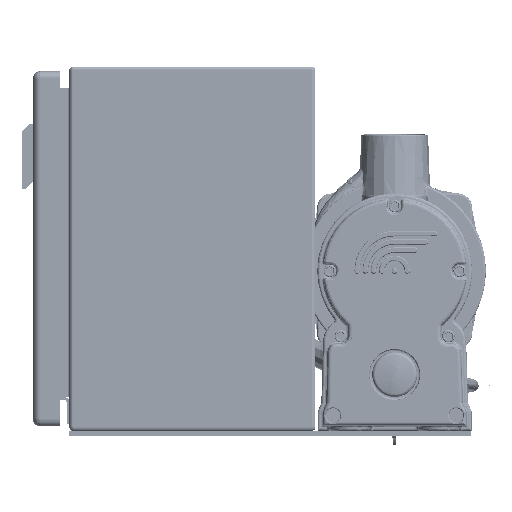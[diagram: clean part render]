
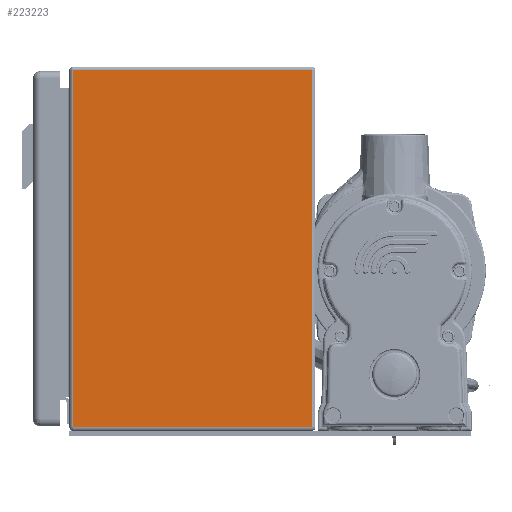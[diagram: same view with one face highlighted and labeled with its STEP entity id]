
A CAD part, left-side view. The second image highlights one B-rep face of the part: STEP entity #223223.
In plain terms, the highlighted planar face has unit normal (-1, 0, 0) as drawn and (0, 1, 0) by its records, which use the part's own axes.
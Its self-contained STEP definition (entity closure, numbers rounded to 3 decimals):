
#4651 = CARTESIAN_POINT ( 'NONE',  ( 97.95, 300., 55.45 ) ) ;
#18325 = ORIENTED_EDGE ( 'NONE', *, *, #51774, .F. ) ;
#24565 = CARTESIAN_POINT ( 'NONE',  ( 97.95, 300., -75.45 ) ) ;
#40385 = LINE ( 'NONE', #4651, #129734 ) ;
#41137 = DIRECTION ( 'NONE',  ( 1., 0., 0. ) ) ;
#45224 = VERTEX_POINT ( 'NONE', #56692 ) ;
#51774 = EDGE_CURVE ( 'NONE', #115761, #254929, #112729, .T. ) ;
#56692 = CARTESIAN_POINT ( 'NONE',  ( -97.95, 300., 55.45 ) ) ;
#76883 = CARTESIAN_POINT ( 'NONE',  ( 97.95, 300., -75.45 ) ) ;
#82906 = AXIS2_PLACEMENT_3D ( 'NONE', #203646, #167775, #132043 ) ;
#93990 = EDGE_CURVE ( 'NONE', #45224, #115761, #242966, .T. ) ;
#109415 = CARTESIAN_POINT ( 'NONE',  ( -97.95, 300., -75.45 ) ) ;
#112729 = LINE ( 'NONE', #76883, #324882 ) ;
#115761 = VERTEX_POINT ( 'NONE', #109415 ) ;
#129734 = VECTOR ( 'NONE', #318233, 1000. ) ;
#132043 = DIRECTION ( 'NONE',  ( 0., 0., 1. ) ) ;
#145980 = FACE_OUTER_BOUND ( 'NONE', #217727, .T. ) ;
#151869 = EDGE_CURVE ( 'NONE', #254929, #261859, #344418, .T. ) ;
#167775 = DIRECTION ( 'NONE',  ( 0., 1., 0. ) ) ;
#171306 = DIRECTION ( 'NONE',  ( 0., 0., -1. ) ) ;
#194602 = ORIENTED_EDGE ( 'NONE', *, *, #93990, .F. ) ;
#196412 = VECTOR ( 'NONE', #171306, 1000. ) ;
#203646 = CARTESIAN_POINT ( 'NONE',  ( 97.95, 300., -75.45 ) ) ;
#207207 = CARTESIAN_POINT ( 'NONE',  ( -97.95, 300., -10. ) ) ;
#217727 = EDGE_LOOP ( 'NONE', ( #317961, #18325, #194602, #236423 ) ) ;
#218790 = VECTOR ( 'NONE', #272768, 1000. ) ;
#223223 = ADVANCED_FACE ( 'NONE', ( #145980 ), #346849, .T. ) ;
#236423 = ORIENTED_EDGE ( 'NONE', *, *, #271337, .F. ) ;
#242966 = LINE ( 'NONE', #207207, #196412 ) ;
#254929 = VERTEX_POINT ( 'NONE', #24565 ) ;
#261859 = VERTEX_POINT ( 'NONE', #347715 ) ;
#271337 = EDGE_CURVE ( 'NONE', #261859, #45224, #40385, .T. ) ;
#272768 = DIRECTION ( 'NONE',  ( 0., 0., 1. ) ) ;
#308505 = CARTESIAN_POINT ( 'NONE',  ( 97.95, 300., -10. ) ) ;
#317961 = ORIENTED_EDGE ( 'NONE', *, *, #151869, .F. ) ;
#318233 = DIRECTION ( 'NONE',  ( -1., 0., 0. ) ) ;
#324882 = VECTOR ( 'NONE', #41137, 1000. ) ;
#344418 = LINE ( 'NONE', #308505, #218790 ) ;
#346849 = PLANE ( 'NONE',  #82906 ) ;
#347715 = CARTESIAN_POINT ( 'NONE',  ( 97.95, 300., 55.45 ) ) ;
